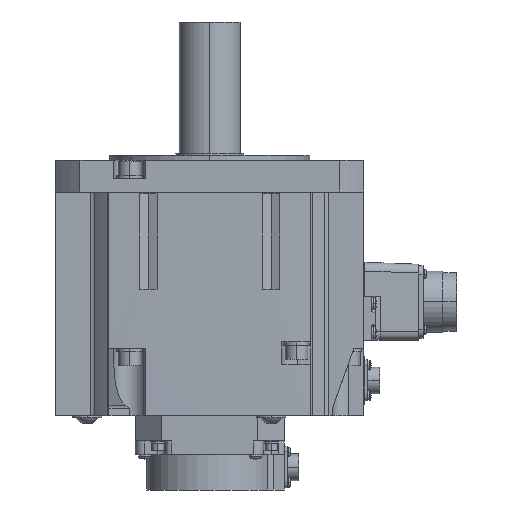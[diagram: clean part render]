
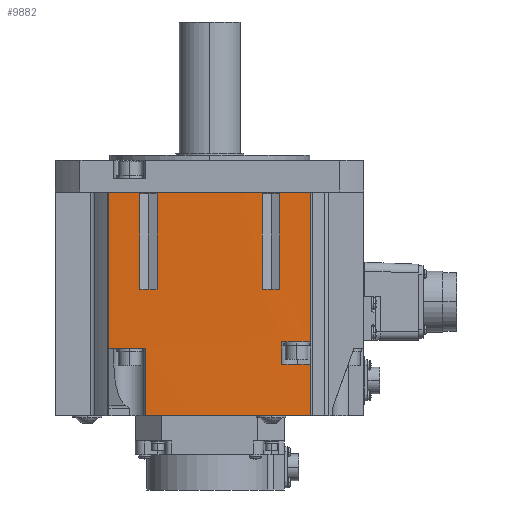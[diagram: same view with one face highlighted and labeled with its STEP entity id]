
A CAD part, left-side view. The second image highlights one B-rep face of the part: STEP entity #9882.
In plain terms, the highlighted cylindrical face has radius 1300 mm (diameter 2600 mm), a partial arc.
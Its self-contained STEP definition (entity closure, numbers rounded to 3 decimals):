
#17=CARTESIAN_POINT('',(1212.,0.,-19.));
#18=DIRECTION('',(0.,0.,1.));
#19=DIRECTION('',(-1.,-0.023,0.));
#20=AXIS2_PLACEMENT_3D('',#17,#18,#19);
#284=CARTESIAN_POINT('',(1212.,0.,-19.));
#285=DIRECTION('',(0.,0.,1.));
#286=DIRECTION('',(-1.,0.031,0.));
#287=AXIS2_PLACEMENT_3D('',#284,#285,#286);
#293=DIRECTION('',(0.,0.,-1.));
#294=VECTOR('',#293,54.5);
#295=CARTESIAN_POINT('',(-87.384,-40.,-19.));
#296=LINE('',#295,#294);
#297=CARTESIAN_POINT('',(1212.,0.,-73.5));
#298=DIRECTION('',(0.,0.,-1.));
#299=DIRECTION('',(-1.,-0.031,0.));
#300=AXIS2_PLACEMENT_3D('',#297,#298,#299);
#312=CARTESIAN_POINT('',(1212.,0.,-73.5));
#313=DIRECTION('',(0.,0.,-1.));
#314=DIRECTION('',(-1.,0.023,0.));
#315=AXIS2_PLACEMENT_3D('',#312,#313,#314);
#317=DIRECTION('',(0.,0.,1.));
#318=VECTOR('',#317,89.1);
#319=CARTESIAN_POINT('',(-86.728,57.5,-107.1));
#320=LINE('',#319,#318);
#325=DIRECTION('',(0.,0.,1.));
#326=VECTOR('',#325,54.5);
#327=CARTESIAN_POINT('',(-87.654,-30.,-73.5));
#328=LINE('',#327,#326);
#353=DIRECTION('',(0.,0.,1.));
#354=VECTOR('',#353,54.5);
#355=CARTESIAN_POINT('',(-87.384,40.,-73.5));
#356=LINE('',#355,#354);
#381=DIRECTION('',(0.,0.,-1.));
#382=VECTOR('',#381,54.5);
#383=CARTESIAN_POINT('',(-87.654,30.,-19.));
#384=LINE('',#383,#382);
#389=CARTESIAN_POINT('',(1212.,0.,-103.5));
#390=DIRECTION('',(0.,0.,1.));
#391=DIRECTION('',(-1.,-0.032,0.));
#392=AXIS2_PLACEMENT_3D('',#389,#390,#391);
#441=DIRECTION('',(0.,0.,1.));
#442=VECTOR('',#441,12.8);
#443=CARTESIAN_POINT('',(-87.353,-41.,-116.3));
#444=LINE('',#443,#442);
#461=DIRECTION('',(0.,0.,1.));
#462=VECTOR('',#461,29.2);
#463=CARTESIAN_POINT('',(-86.728,-57.5,-145.5));
#464=LINE('',#463,#462);
#477=DIRECTION('',(0.,0.,1.));
#478=VECTOR('',#477,85.5);
#479=CARTESIAN_POINT('',(-86.728,-57.5,-103.5));
#480=LINE('',#479,#478);
#3048=CARTESIAN_POINT('',(1212.,0.,-107.1));
#3049=DIRECTION('',(0.,0.,1.));
#3050=DIRECTION('',(-0.999,0.044,0.));
#3051=AXIS2_PLACEMENT_3D('',#3048,#3049,#3050);
#3136=CARTESIAN_POINT('',(1212.,0.,-145.5));
#3137=DIRECTION('',(0.,0.,1.));
#3138=DIRECTION('',(-1.,0.028,0.));
#3139=AXIS2_PLACEMENT_3D('',#3136,#3137,#3138);
#3273=DIRECTION('',(0.,0.,-1.));
#3274=VECTOR('',#3273,38.4);
#3275=CARTESIAN_POINT('',(-87.48,36.75,-107.1));
#3276=LINE('',#3275,#3274);
#5763=CARTESIAN_POINT('',(1212.,0.,-18.));
#5764=DIRECTION('',(0.,0.,-1.));
#5765=DIRECTION('',(-1.,0.,0.));
#5766=AXIS2_PLACEMENT_3D('',#5763,#5764,#5765);
#5940=CARTESIAN_POINT('',(1212.,0.,-18.));
#5941=DIRECTION('',(0.,0.,-1.));
#5942=DIRECTION('',(-0.999,-0.044,0.));
#5943=AXIS2_PLACEMENT_3D('',#5940,#5941,#5942);
#7090=CARTESIAN_POINT('',(1212.,0.,-116.3));
#7091=DIRECTION('',(0.,0.,-1.));
#7092=DIRECTION('',(-0.999,-0.044,0.));
#7093=AXIS2_PLACEMENT_3D('',#7090,#7091,#7092);
#7192=CARTESIAN_POINT('',(-88.,0.,-18.));
#7194=VERTEX_POINT('',#7192);
#7207=CARTESIAN_POINT('',(-86.728,-57.5,-18.));
#7208=VERTEX_POINT('',#7207);
#7211=CARTESIAN_POINT('',(-86.728,57.5,-18.));
#7212=VERTEX_POINT('',#7211);
#7408=CARTESIAN_POINT('',(-86.728,57.5,-107.1));
#7410=VERTEX_POINT('',#7408);
#7443=CARTESIAN_POINT('',(-87.48,36.75,-145.5));
#7444=VERTEX_POINT('',#7443);
#7446=CARTESIAN_POINT('',(-86.728,-57.5,-145.5));
#7448=VERTEX_POINT('',#7446);
#7514=CARTESIAN_POINT('',(-87.48,36.75,-107.1));
#7515=VERTEX_POINT('',#7514);
#7516=CARTESIAN_POINT('',(-86.728,-57.5,-116.3));
#7517=CARTESIAN_POINT('',(-87.353,-41.,-116.3));
#7518=VERTEX_POINT('',#7516);
#7519=VERTEX_POINT('',#7517);
#8600=CARTESIAN_POINT('',(-87.384,-40.,-19.));
#8602=VERTEX_POINT('',#8600);
#8608=CARTESIAN_POINT('',(-87.654,-30.,-19.));
#8609=VERTEX_POINT('',#8608);
#8758=CARTESIAN_POINT('',(-87.654,30.,-19.));
#8760=VERTEX_POINT('',#8758);
#8766=CARTESIAN_POINT('',(-87.384,40.,-19.));
#8767=VERTEX_POINT('',#8766);
#8768=CARTESIAN_POINT('',(-87.384,-40.,-73.5));
#8770=VERTEX_POINT('',#8768);
#8776=CARTESIAN_POINT('',(-87.654,-30.,-73.5));
#8777=VERTEX_POINT('',#8776);
#8926=CARTESIAN_POINT('',(-87.654,30.,-73.5));
#8928=VERTEX_POINT('',#8926);
#8934=CARTESIAN_POINT('',(-87.384,40.,-73.5));
#8935=VERTEX_POINT('',#8934);
#8938=CARTESIAN_POINT('',(-86.728,-57.5,-103.5));
#8939=VERTEX_POINT('',#8938);
#8941=CARTESIAN_POINT('',(-87.353,-41.,-103.5));
#8943=VERTEX_POINT('',#8941);
#9838=CARTESIAN_POINT('',(1212.,0.,-18.5));
#9839=DIRECTION('',(0.,0.,-1.));
#9840=DIRECTION('',(-0.999,-0.044,0.));
#9841=AXIS2_PLACEMENT_3D('',#9838,#9839,#9840);
#9842=CYLINDRICAL_SURFACE('',#9841,1300.);
#9844=ORIENTED_EDGE('',*,*,#9843,.F.);
#9846=ORIENTED_EDGE('',*,*,#9845,.F.);
#9848=ORIENTED_EDGE('',*,*,#9847,.F.);
#9850=ORIENTED_EDGE('',*,*,#9849,.F.);
#9852=ORIENTED_EDGE('',*,*,#9851,.F.);
#9854=ORIENTED_EDGE('',*,*,#9853,.F.);
#9856=ORIENTED_EDGE('',*,*,#9855,.F.);
#9858=ORIENTED_EDGE('',*,*,#9857,.T.);
#9860=ORIENTED_EDGE('',*,*,#9859,.F.);
#9862=ORIENTED_EDGE('',*,*,#9861,.F.);
#9864=ORIENTED_EDGE('',*,*,#9863,.F.);
#9865=EDGE_LOOP('',(#9844,#9846,#9848,#9850,#9852,#9854,#9856,#9858,#9860,#9862,
#9864));
#9866=FACE_OUTER_BOUND('',#9865,.F.);
#9868=ORIENTED_EDGE('',*,*,#9867,.F.);
#9869=ORIENTED_EDGE('',*,*,#9827,.F.);
#9871=ORIENTED_EDGE('',*,*,#9870,.F.);
#9872=ORIENTED_EDGE('',*,*,#9491,.F.);
#9873=EDGE_LOOP('',(#9868,#9869,#9871,#9872));
#9874=FACE_BOUND('',#9873,.F.);
#9876=ORIENTED_EDGE('',*,*,#9875,.F.);
#9877=ORIENTED_EDGE('',*,*,#9517,.F.);
#9878=ORIENTED_EDGE('',*,*,#9506,.F.);
#9879=ORIENTED_EDGE('',*,*,#9181,.F.);
#9880=EDGE_LOOP('',(#9876,#9877,#9878,#9879));
#9881=FACE_BOUND('',#9880,.F.);
#9882=ADVANCED_FACE('',(#9866,#9874,#9881),#9842,.T.);
#21=CIRCLE('',#20,1300.);
#288=CIRCLE('',#287,1300.);
#301=CIRCLE('',#300,1300.);
#316=CIRCLE('',#315,1300.);
#393=CIRCLE('',#392,1300.);
#3052=CIRCLE('',#3051,1300.);
#3140=CIRCLE('',#3139,1300.);
#5767=CIRCLE('',#5766,1300.);
#5944=CIRCLE('',#5943,1300.);
#7094=CIRCLE('',#7093,1300.);
#9181=EDGE_CURVE('',#8609,#8602,#21,.T.);
#9491=EDGE_CURVE('',#8767,#8760,#288,.T.);
#9506=EDGE_CURVE('',#8602,#8770,#296,.T.);
#9517=EDGE_CURVE('',#8770,#8777,#301,.T.);
#9827=EDGE_CURVE('',#8928,#8935,#316,.T.);
#9843=EDGE_CURVE('',#8943,#8939,#393,.T.);
#9845=EDGE_CURVE('',#7519,#8943,#444,.T.);
#9847=EDGE_CURVE('',#7518,#7519,#7094,.T.);
#9849=EDGE_CURVE('',#7448,#7518,#464,.T.);
#9851=EDGE_CURVE('',#7444,#7448,#3140,.T.);
#9853=EDGE_CURVE('',#7515,#7444,#3276,.T.);
#9855=EDGE_CURVE('',#7410,#7515,#3052,.T.);
#9857=EDGE_CURVE('',#7410,#7212,#320,.T.);
#9859=EDGE_CURVE('',#7194,#7212,#5767,.T.);
#9861=EDGE_CURVE('',#7208,#7194,#5944,.T.);
#9863=EDGE_CURVE('',#8939,#7208,#480,.T.);
#9867=EDGE_CURVE('',#8935,#8767,#356,.T.);
#9870=EDGE_CURVE('',#8760,#8928,#384,.T.);
#9875=EDGE_CURVE('',#8777,#8609,#328,.T.);
